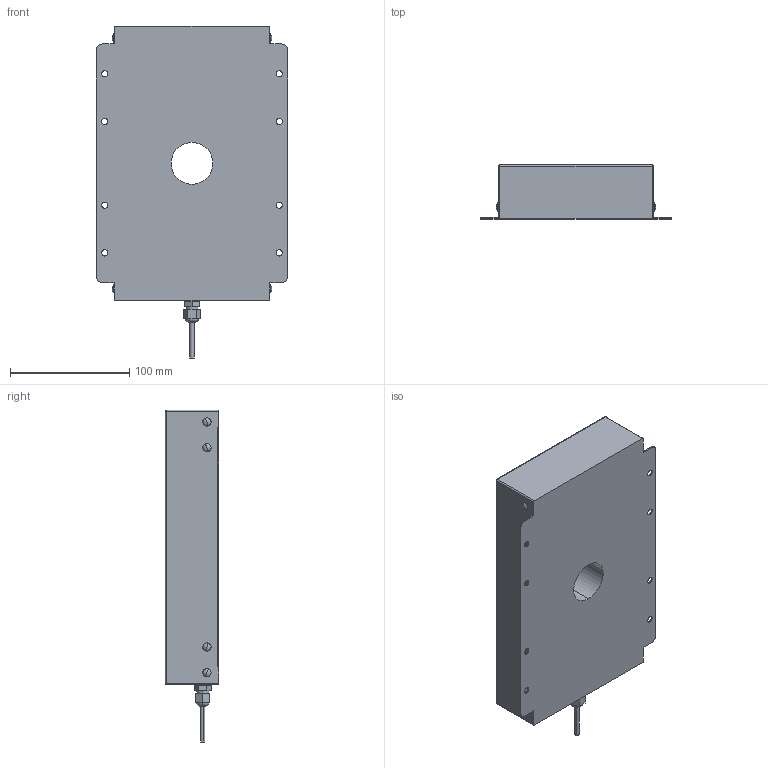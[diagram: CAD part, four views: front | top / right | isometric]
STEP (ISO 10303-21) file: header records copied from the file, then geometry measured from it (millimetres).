
FILE_DESCRIPTION (( 'STEP AP203' ), '1' );
FILE_NAME ('HDSBPA-200x100_-24-35D.STEP', '2023-04-18T05:46:15', ( '' ), ( '' ), 'SwSTEP 2.0', 'SolidWorks 2022', '' );
FILE_SCHEMA (( 'CONFIG_CONTROL_DESIGN' ));
Length unit declared in the file: millimetre
Products named in the file (1): HDSBPA-200x100_-24-35D
Bounding box: 160 x 45 x 278 mm (x, y, z)
Volume: 1291477.4 mm3; surface area: 108360.9 mm2
Topology: 1 solids, 1 shells, 122 faces, 322 edges, 196 vertices
Faces by surface type: cylinder 52, plane 48, sphere 20, torus 2
Entity records: 3705 total; most frequent: DIRECTION 686, CARTESIAN_POINT 605, ORIENTED_EDGE 588, EDGE_CURVE 294, AXIS2_PLACEMENT_3D 269, VERTEX_POINT 188, EDGE_LOOP 154, VECTOR 148
